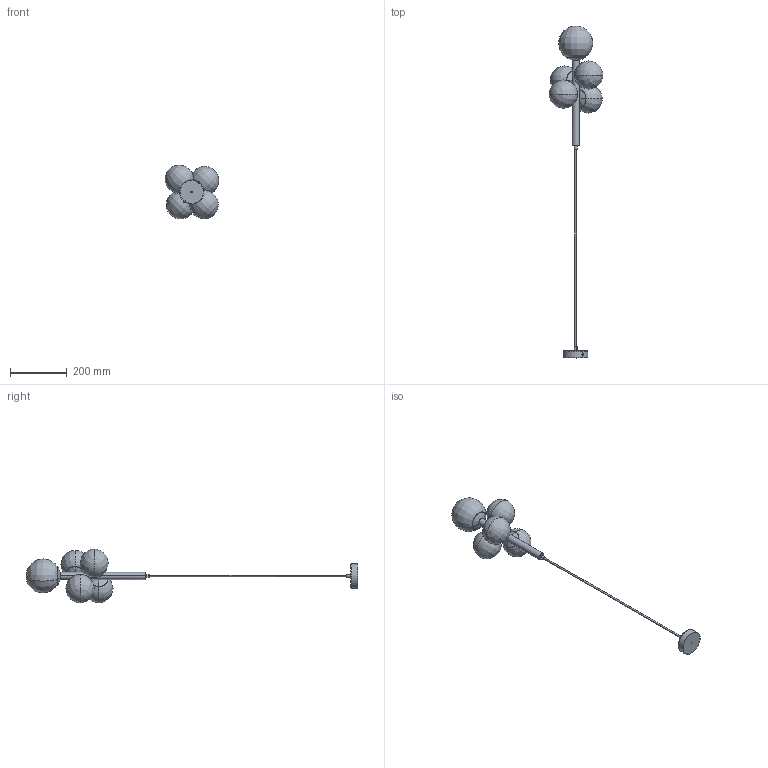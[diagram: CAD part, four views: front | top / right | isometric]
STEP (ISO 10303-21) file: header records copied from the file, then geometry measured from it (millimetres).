
FILE_DESCRIPTION ((), '1');
FILE_NAME ('G:\_Liczy się słowo\_Modelowanie SIGMA\Perła Lux\Perła Lux\Perła Lux5\Perła Lux.stp', '2024-08-22T13:18:32', ('Unknown'), ('Unknown'), 'HarmonyWare STEP v2.1.4', 'HarmonyWare Translators', '');
FILE_SCHEMA (('CONFIG_CONTROL_DESIGN'));
Length unit declared in the file: centimetre
Products named in the file (16): podsufitka; klosz; podkloszówka; przewód
Assembly tree (15 placements, depth 2):
  (unnamed)
    podsufitka
    klosz
    podsufitka
    podkloszówka
    klosz
    podkloszówka
    klosz
    podkloszówka
    przewód
    podkloszówka
    klosz
    podkloszówka
    klosz
    podkloszówka
    podsufitka
Bounding box: 189.01 x 1166.86 x 189.3 mm (x, y, z)
Volume: 3205618.3 mm3; surface area: 278502.6 mm2
Topology: 9 solids, 17 shells, 203 faces, 552 edges, 318 vertices
Faces by surface type: bspline 203
Entity records: 17839 total; most frequent: CARTESIAN_POINT 12862, ORIENTED_EDGE 900, EDGE_CURVE 528, VERTEX_POINT 318, B_SPLINE_CURVE_WITH_KNOTS 283, EDGE_LOOP 222, FACE_OUTER_BOUND 203, ADVANCED_FACE 203
